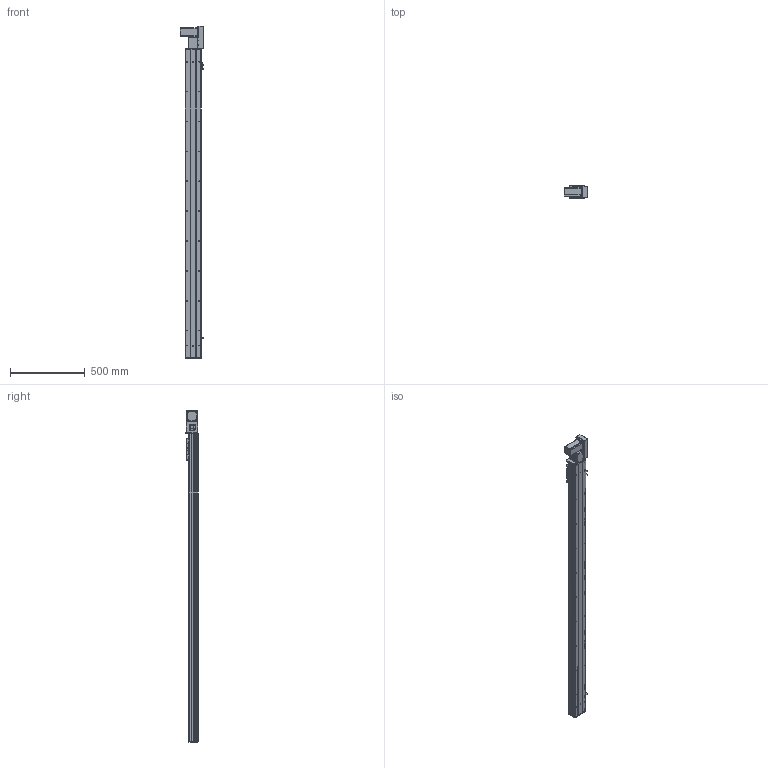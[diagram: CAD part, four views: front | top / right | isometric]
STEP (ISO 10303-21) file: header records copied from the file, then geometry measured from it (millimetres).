
FILE_DESCRIPTION (( 'STEP AP203' ), '1' );
FILE_NAME ('Y10CB-D90-S1800-BR-P400W.STEP', '2020-02-16T02:07:49', ( '微软用户' ), ( '微软中国' ), 'SwSTEP 2.0', 'SolidWorks 2017', '' );
FILE_SCHEMA (( 'CONFIG_CONTROL_DESIGN' ));
Length unit declared in the file: millimetre
Products named in the file (18): Y10C---詩湍揤啣; Y10B-耜蚾蟀諉啣----; 10CB9-掛极; 0B-萇儂楊擘啣; 10CB-耜裔; san松下电机400不带刹车----; Y135C-陔俋离換覜結え-; 0B-源倛裔啣; Y100-135俋离換覜ん--; 0B-埴倛裔啣; Y10B--々湍喘謫眊--666; Y俋欶BR----; 0CB-雄赽釱---; Y10CB-D90-S1800-BR-P400W; 10CB-詩湍-; 0Cb-俋欶---; Y10CB- 掛极耜裔啣-毀---; Y10B-々湍喘謫眊楊擘啣--
Assembly tree (21 placements, depth 2):
  Y10CB-D90-S1800-BR-P400W
    0CB-雄赽釱---
    0Cb-俋欶---
    Y10B-々湍喘謫眊楊擘啣--
    Y10B-耜蚾蟀諉啣----
    0B-萇儂楊擘啣
    san松下电机400不带刹车----
    0B-源倛裔啣
    0B-埴倛裔啣
    Y俋欶BR----
    10CB-詩湍-
    Y10CB- 掛极耜裔啣-毀---  x2
    Y10C---詩湍揤啣  x2
    10CB9-掛极
    10CB-耜裔
    Y135C-陔俋离換覜結え-
    Y100-135俋离換覜ん--  x3
    Y10B--々湍喘謫眊--666
Bounding box: 157.5 x 80.5 x 2222.5 mm (x, y, z)
Volume: 4532702.2 mm3; surface area: 2116977 mm2
Topology: 21 solids, 21 shells, 1038 faces, 2803 edges, 1826 vertices
Faces by surface type: cylinder 527, plane 487, cone 24
Entity records: 32904 total; most frequent: CARTESIAN_POINT 6061, DIRECTION 5266, ORIENTED_EDGE 5076, EDGE_CURVE 2538, AXIS2_PLACEMENT_3D 1881, VERTEX_POINT 1652, LINE 1504, VECTOR 1504
